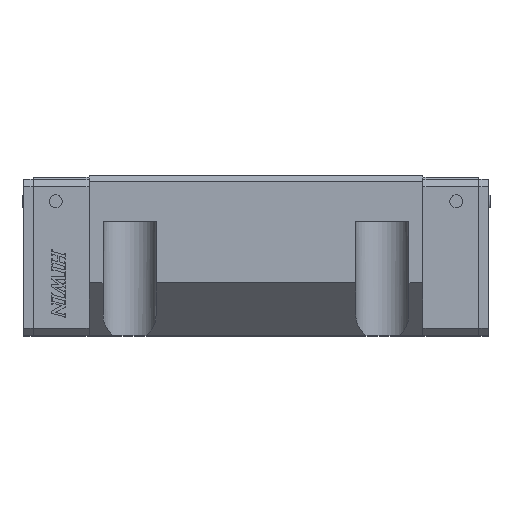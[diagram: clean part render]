
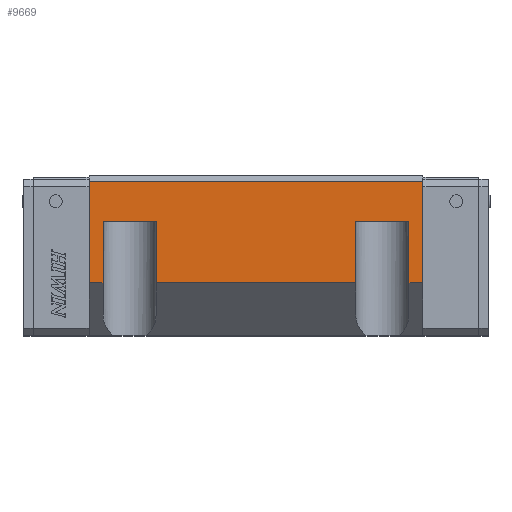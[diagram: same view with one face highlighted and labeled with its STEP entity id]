
A CAD part, top view. The second image highlights one B-rep face of the part: STEP entity #9669.
In plain terms, the highlighted planar face has unit normal (0, 0, 1) as drawn and (-1, 0, 0) by its records, which use the part's own axes.
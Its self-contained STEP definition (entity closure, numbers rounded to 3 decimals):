
#124=PLANE('',#10321);
#528=FACE_OUTER_BOUND('',#1063,.T.);
#1063=EDGE_LOOP('',(#6905,#6906,#6907,#6908,#6909,#6910,#6911,#6912,#6913,
#6914,#6915,#6916));
#1629=LINE('',#14052,#2793);
#1659=LINE('',#14111,#2823);
#1667=LINE('',#14125,#2831);
#1670=LINE('',#14134,#2834);
#1679=LINE('',#14157,#2843);
#1682=LINE('',#14163,#2846);
#1690=LINE('',#14185,#2854);
#1693=LINE('',#14191,#2857);
#1700=LINE('',#14210,#2864);
#1701=LINE('',#14211,#2865);
#1702=LINE('',#14212,#2866);
#1703=LINE('',#14213,#2867);
#2793=VECTOR('',#11258,38.15);
#2823=VECTOR('',#11290,38.15);
#2831=VECTOR('',#11306,20.);
#2834=VECTOR('',#11313,20.);
#2843=VECTOR('',#11334,22.95);
#2846=VECTOR('',#11339,22.95);
#2854=VECTOR('',#11365,22.95);
#2857=VECTOR('',#11370,22.95);
#2864=VECTOR('',#11395,75.);
#2865=VECTOR('',#11396,5.25);
#2866=VECTOR('',#11397,125.5);
#2867=VECTOR('',#11398,5.25);
#4242=VERTEX_POINT('',#14049);
#4243=VERTEX_POINT('',#14051);
#4270=VERTEX_POINT('',#14108);
#4271=VERTEX_POINT('',#14110);
#4272=VERTEX_POINT('',#14123);
#4273=VERTEX_POINT('',#14124);
#4276=VERTEX_POINT('',#14132);
#4277=VERTEX_POINT('',#14133);
#4285=VERTEX_POINT('',#14156);
#4287=VERTEX_POINT('',#14162);
#4292=VERTEX_POINT('',#14184);
#4294=VERTEX_POINT('',#14190);
#5240=EDGE_CURVE('',#4243,#4242,#1629,.T.);
#5270=EDGE_CURVE('',#4271,#4270,#1659,.T.);
#5278=EDGE_CURVE('',#4272,#4273,#1667,.T.);
#5282=EDGE_CURVE('',#4276,#4277,#1670,.T.);
#5294=EDGE_CURVE('',#4273,#4285,#1679,.T.);
#5297=EDGE_CURVE('',#4287,#4272,#1682,.T.);
#5309=EDGE_CURVE('',#4277,#4292,#1690,.T.);
#5312=EDGE_CURVE('',#4294,#4276,#1693,.T.);
#5323=EDGE_CURVE('',#4285,#4294,#1700,.T.);
#5324=EDGE_CURVE('',#4292,#4271,#1701,.T.);
#5325=EDGE_CURVE('',#4243,#4270,#1702,.T.);
#5326=EDGE_CURVE('',#4242,#4287,#1703,.T.);
#6905=ORIENTED_EDGE('',*,*,#5297,.T.);
#6906=ORIENTED_EDGE('',*,*,#5278,.T.);
#6907=ORIENTED_EDGE('',*,*,#5294,.T.);
#6908=ORIENTED_EDGE('',*,*,#5323,.T.);
#6909=ORIENTED_EDGE('',*,*,#5312,.T.);
#6910=ORIENTED_EDGE('',*,*,#5282,.T.);
#6911=ORIENTED_EDGE('',*,*,#5309,.T.);
#6912=ORIENTED_EDGE('',*,*,#5324,.T.);
#6913=ORIENTED_EDGE('',*,*,#5270,.T.);
#6914=ORIENTED_EDGE('',*,*,#5325,.F.);
#6915=ORIENTED_EDGE('',*,*,#5240,.T.);
#6916=ORIENTED_EDGE('',*,*,#5326,.T.);
#9669=ADVANCED_FACE('',(#528),#124,.T.);
#10321=AXIS2_PLACEMENT_3D('',#14209,#11393,#11394);
#11258=DIRECTION('',(0.,-1.,0.));
#11290=DIRECTION('',(0.,1.,0.));
#11306=DIRECTION('',(0.,0.,1.));
#11313=DIRECTION('',(0.,0.,1.));
#11334=DIRECTION('',(0.,-1.,0.));
#11339=DIRECTION('',(0.,1.,0.));
#11365=DIRECTION('',(0.,-1.,0.));
#11370=DIRECTION('',(0.,1.,0.));
#11393=DIRECTION('center_axis',(-1.,0.,0.));
#11394=DIRECTION('ref_axis',(0.,0.,1.));
#11395=DIRECTION('',(0.,0.,1.));
#11396=DIRECTION('',(0.,0.,1.));
#11397=DIRECTION('',(0.,0.,1.));
#11398=DIRECTION('',(0.,0.,1.));
#14049=CARTESIAN_POINT('',(-70.,19.85,-62.75));
#14051=CARTESIAN_POINT('',(-70.,58.,-62.75));
#14052=CARTESIAN_POINT('',(-70.,58.,-62.75));
#14108=CARTESIAN_POINT('',(-70.,58.,62.75));
#14110=CARTESIAN_POINT('',(-70.,19.85,62.75));
#14111=CARTESIAN_POINT('',(-70.,19.85,62.75));
#14123=CARTESIAN_POINT('',(-70.,43.,-57.5));
#14124=CARTESIAN_POINT('',(-70.,43.,-37.5));
#14125=CARTESIAN_POINT('',(-70.,43.,-57.5));
#14132=CARTESIAN_POINT('',(-70.,43.,37.5));
#14133=CARTESIAN_POINT('',(-70.,43.,57.5));
#14134=CARTESIAN_POINT('',(-70.,43.,37.5));
#14156=CARTESIAN_POINT('',(-70.,19.85,-37.5));
#14157=CARTESIAN_POINT('',(-70.,42.8,-37.5));
#14162=CARTESIAN_POINT('',(-70.,19.85,-57.5));
#14163=CARTESIAN_POINT('',(-70.,19.85,-57.5));
#14184=CARTESIAN_POINT('',(-70.,19.85,57.5));
#14185=CARTESIAN_POINT('',(-70.,42.8,57.5));
#14190=CARTESIAN_POINT('',(-70.,19.85,37.5));
#14191=CARTESIAN_POINT('',(-70.,19.85,37.5));
#14209=CARTESIAN_POINT('Origin',(-70.,58.,0.));
#14210=CARTESIAN_POINT('',(-70.,19.85,-37.5));
#14211=CARTESIAN_POINT('',(-70.,19.85,57.5));
#14212=CARTESIAN_POINT('',(-70.,58.,-62.75));
#14213=CARTESIAN_POINT('',(-70.,19.85,-62.75));
